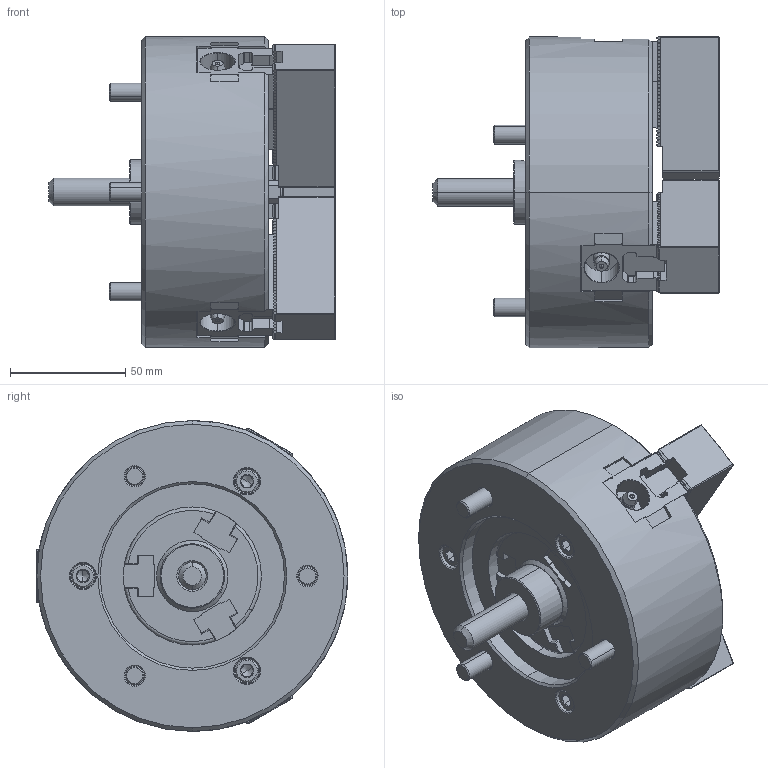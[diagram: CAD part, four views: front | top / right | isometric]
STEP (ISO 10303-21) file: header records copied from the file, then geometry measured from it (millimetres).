
FILE_DESCRIPTION (( 'STEP AP214' ), '1' );
FILE_NAME ('DT1_N-05_OUTSIDE_VIEW_HOL.STEP', '2026-03-13T02:03:17', ( '' ), ( '' ), 'SwSTEP 2.0', 'SolidWorks 2022', '' );
FILE_SCHEMA (( 'AUTOMOTIVE_DESIGN' ));
Length unit declared in the file: millimetre
Products named in the file (10): DT1_N-05_BASE^DT1_N-05; DT1_N-05_DRAWSCREW^DT1_N-05; DT1_N-05_M4x8^DT1_N-05; DT1_N-05_OUTSIDE_VIEW_HOL; DT1_N-05_COVER^DT1_N-05; DT1_N-05_M8x22^DT1_N-05; DT1_N-05_SOFTJAW^DT1_N-05; DT1_N-05_M8x60^DT1_N-05; DT1_N-05_DN^DT1_N-05; DT1_N-05_TNUT^DT1_N-05
Assembly tree (22 placements, depth 2):
  DT1_N-05_OUTSIDE_VIEW_HOL
    DT1_N-05_SOFTJAW^DT1_N-05  x3
    DT1_N-05_TNUT^DT1_N-05  x3
    DT1_N-05_COVER^DT1_N-05
    DT1_N-05_DRAWSCREW^DT1_N-05
    DT1_N-05_DN^DT1_N-05
    DT1_N-05_BASE^DT1_N-05
    DT1_N-05_M8x22^DT1_N-05  x6
    DT1_N-05_M8x60^DT1_N-05  x3
    DT1_N-05_M4x8^DT1_N-05  x3
Bounding box: 124.25 x 135.26 x 135 mm (x, y, z)
Volume: 840285.7 mm3; surface area: 142380.7 mm2
Topology: 22 solids, 25 shells, 3541 faces, 9920 edges, 6481 vertices
Faces by surface type: plane 2264, cylinder 826, cone 277, bspline 116, torus 52, sphere 6
Entity records: 87479 total; most frequent: CARTESIAN_POINT 23905, ORIENTED_EDGE 14072, DIRECTION 11770, EDGE_CURVE 7036, VECTOR 5252, LINE 5252, VERTEX_POINT 4608, AXIS2_PLACEMENT_3D 3259
